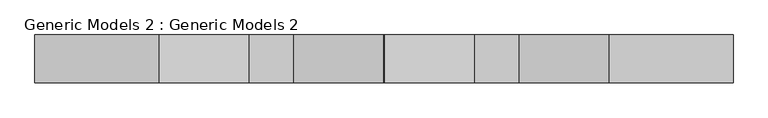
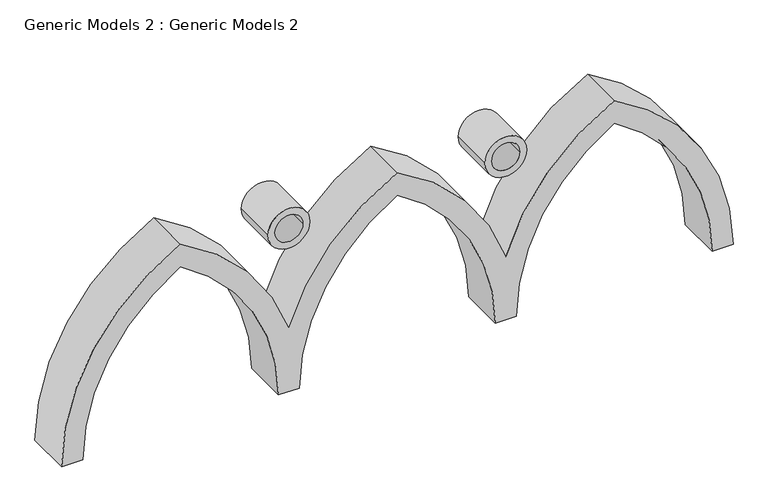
"""IFC4 building model written with IfcOpenShell, lengths in millimetres: proxy geometry, Generic Models 2 : Generic Models 2."""

from ifc_helpers import new_model, si_unit, point, frame, frame_2d, origin, place, context, project, spatial, polyline, circle_curve, trimmed, segment, composite_curve, outline, extrude, source, transform, mapped, element, save


def generic_models_2_generic_models_2_ce3da98e(model_context):
    return source(origin(), model_context, "Body", "SweptSolid", [
        extrude(outline(composite_curve([segment(trimmed(circle_curve(frame_2d((4787.5644347, 2750.000082)), 1550.0), [point((6170.4961033, 2050.000082))], [point((4787.5644347, 1200.000082))], False, "CARTESIAN"), True, "CONTINUOUS"), segment(polyline([(4787.5644347, 1200.000082), (4787.5644347, 1350.000082)]), True, "CONTINUOUS"), segment(trimmed(circle_curve(frame_2d((4787.5644347, 2750.000082)), 1400.0), [point((4787.5644347, 1350.000082))], [point((6000.0, 2050.000082))], True, "CARTESIAN"), True, "CONTINUOUS"), segment(trimmed(circle_curve(frame_2d((4787.5644347, 1350.000082)), 1400.0), [point((6000.0, 2050.000082))], [point((4787.5644347, 2750.000082))], True, "CARTESIAN"), True, "CONTINUOUS"), segment(polyline([(4787.5644347, 2750.000082), (4787.5644347, 2900.000082)]), True, "CONTINUOUS"), segment(trimmed(circle_curve(frame_2d((4787.5644347, 4300.000082)), 1400.0), [point((4787.5644347, 2900.000082))], [point((6000.0, 3600.000082))], True, "CARTESIAN"), True, "CONTINUOUS"), segment(trimmed(circle_curve(frame_2d((4787.5644347, 2900.000082)), 1400.0), [point((6000.0, 3600.000082))], [point((4787.5644347, 4300.000082))], True, "CARTESIAN"), True, "CONTINUOUS"), segment(polyline([(4787.5644347, 4300.000082), (4787.5644347, 4450.000082)]), True, "CONTINUOUS"), segment(trimmed(circle_curve(frame_2d((4787.5644347, 5850.000082)), 1400.0), [point((4787.5644347, 4450.000082))], [point((6000.0, 5150.000082))], True, "CARTESIAN"), True, "CONTINUOUS"), segment(trimmed(circle_curve(frame_2d((4787.5644347, 4450.000082)), 1400.0), [point((6000.0, 5150.000082))], [point((4787.5644347, 5850.000082))], True, "CARTESIAN"), True, "CONTINUOUS"), segment(polyline([(4787.5644347, 5850.000082), (4787.5644347, 6000.000082)]), True, "CONTINUOUS"), segment(trimmed(circle_curve(frame_2d((4787.5644347, 4450.000082)), 1550.0), [point((4787.5644347, 6000.000082))], [point((6170.4961033, 5150.000082))], False, "CARTESIAN"), True, "CONTINUOUS"), segment(trimmed(circle_curve(frame_2d((4787.5644347, 5850.000082)), 1550.0), [point((6170.4961033, 5150.000082))], [point((5263.8784068, 4375.000082))], False, "CARTESIAN"), True, "CONTINUOUS"), segment(trimmed(circle_curve(frame_2d((4787.5644347, 2900.000082)), 1550.0), [point((5263.8784068, 4375.000082))], [point((6170.4961033, 3600.000082))], False, "CARTESIAN"), True, "CONTINUOUS"), segment(trimmed(circle_curve(frame_2d((4787.5644347, 4300.000082)), 1550.0), [point((6170.4961033, 3600.000082))], [point((5263.8784068, 2825.000082))], False, "CARTESIAN"), True, "CONTINUOUS"), segment(trimmed(circle_curve(frame_2d((4787.5644347, 1350.000082)), 1550.0), [point((5263.8784068, 2825.000082))], [point((6170.4961033, 2050.000082))], False, "CARTESIAN"), True, "CONTINUOUS")], self_intersect=False)), frame((0.0, -30.0021832, 0.0), z_axis=(0.0, 1.0, 0.0), x_axis=(0.0, 0.0, 1.0)), (0.0, 0.0, 1.0), 330.0021832),
        extrude(outline(composite_curve([segment(trimmed(circle_curve(frame_2d((6020.4961033, 2825.000082)), 150.0), [point((6020.4961033, 2675.000082))], [point((6020.4961033, 2975.000082))], False, "CARTESIAN"), True, "CONTINUOUS"), segment(trimmed(circle_curve(frame_2d((6020.4961033, 2825.000082)), 150.0), [point((6020.4961033, 2975.000082))], [point((6020.4961033, 2675.000082))], False, "CARTESIAN"), True, "CONTINUOUS")], self_intersect=False), holes=[composite_curve([segment(trimmed(circle_curve(frame_2d((6020.4961033, 2825.000082)), 100.0), [point((6020.4961033, 2725.000082))], [point((6020.4961033, 2925.000082))], True, "CARTESIAN"), True, "CONTINUOUS"), segment(trimmed(circle_curve(frame_2d((6020.4961033, 2825.000082)), 100.0), [point((6020.4961033, 2925.000082))], [point((6020.4961033, 2725.000082))], True, "CARTESIAN"), True, "CONTINUOUS")], self_intersect=False)]), frame((0.0, -30.0021832, 0.0), z_axis=(0.0, 1.0, 0.0), x_axis=(0.0, 0.0, 1.0)), (0.0, 0.0, 1.0), 330.0021832),
        extrude(outline(composite_curve([segment(trimmed(circle_curve(frame_2d((6020.4961033, 4375.000082)), 150.0), [point((6020.4961033, 4225.000082))], [point((6020.4961033, 4525.000082))], False, "CARTESIAN"), True, "CONTINUOUS"), segment(trimmed(circle_curve(frame_2d((6020.4961033, 4375.000082)), 150.0), [point((6020.4961033, 4525.000082))], [point((6020.4961033, 4225.000082))], False, "CARTESIAN"), True, "CONTINUOUS")], self_intersect=False), holes=[composite_curve([segment(trimmed(circle_curve(frame_2d((6020.4961033, 4375.000082)), 100.0), [point((6020.4961033, 4275.000082))], [point((6020.4961033, 4475.000082))], True, "CARTESIAN"), True, "CONTINUOUS"), segment(trimmed(circle_curve(frame_2d((6020.4961033, 4375.000082)), 100.0), [point((6020.4961033, 4475.000082))], [point((6020.4961033, 4275.000082))], True, "CARTESIAN"), True, "CONTINUOUS")], self_intersect=False)]), frame((0.0, -30.0021832, 0.0), z_axis=(0.0, 1.0, 0.0), x_axis=(0.0, 0.0, 1.0)), (0.0, 0.0, 1.0), 330.0021832),
    ])


if __name__ == "__main__":
    model = new_model("IFC4")
    model_context = context("Model", 3, world=origin())
    ifc_project = project(units=[si_unit("LENGTHUNIT", "METRE", prefix="MILLI")], contexts=[model_context])
    site = spatial("IfcSite", under=ifc_project)
    building = spatial("IfcBuilding", under=site)
    placement = place(None, origin())
    generic_models_2_generic_models_2_shape = generic_models_2_generic_models_2_ce3da98e(model_context)
    element("IfcBuildingElementProxy", 1, Name="Generic Models 2 : Generic Models 2", ObjectType="Generic Models 2 : Generic Models 2", at=placement, inside=building, context=model_context, shape_type="MappedRepresentation", body=[
        mapped(generic_models_2_generic_models_2_shape, transform((0.0, 0.0, 0.0), x_axis=(1.0, 0.0, 0.0), y_axis=(0.0, 1.0, 0.0), z_axis=(0.0, 0.0, 1.0))),
    ])
    save(model, "model.ifc")
